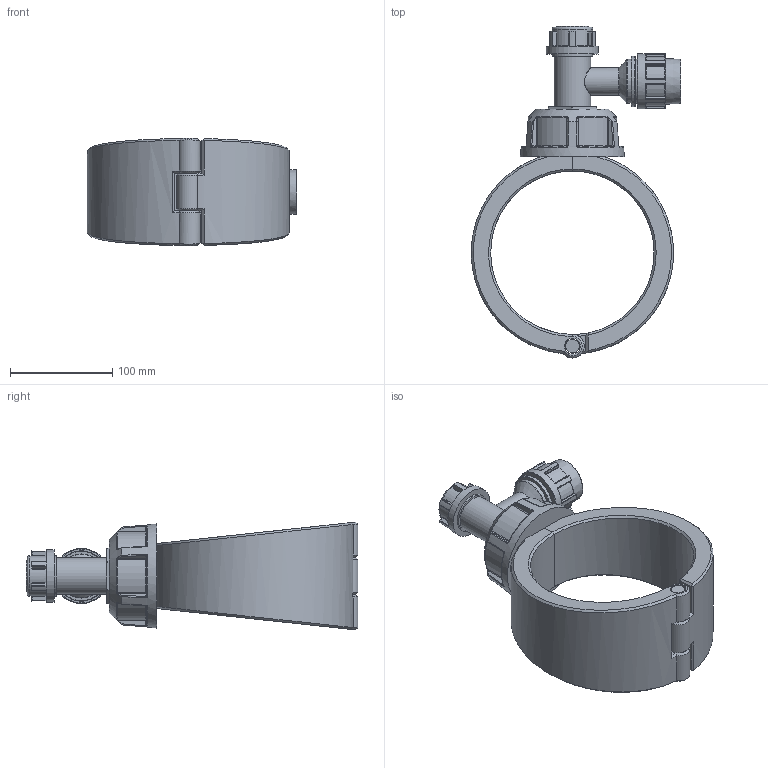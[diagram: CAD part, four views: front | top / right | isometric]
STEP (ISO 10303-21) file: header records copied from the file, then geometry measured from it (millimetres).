
FILE_DESCRIPTION(/* description */ ('Plassadle Tapper 160x25'),/* implementation_level */ '2;1');
FILE_NAME(/* name */ 'C:\Users\comp2\Dropbox\99-16-3568-Processing\Mechanical Fittings\16310\stp\163100180025_1631061800250A.stp',/* time_stamp */ '2022-02-03T11:58:42+00:00',/* author */ ('comp2'),/* organization */ (''),/* preprocessor_version */ 'ST-DEVELOPER v17.2',/* originating_system */ 'Autodesk Inventor 2019',/* authorisation */ '');
FILE_SCHEMA (('AUTOMOTIVE_DESIGN { 1 0 10303 214 3 1 1 }'));
Length unit declared in the file: millimetre
Products named in the file (1): 163100180025_1631061800250A
Bounding box: 204.97 x 324.99 x 105.57 mm (x, y, z)
Volume: 1379782.7 mm3; surface area: 185710.1 mm2
Topology: 4 solids, 4 shells, 519 faces, 1253 edges, 754 vertices
Faces by surface type: cylinder 184, plane 109, bspline 87, torus 83, sphere 40, cone 16
Full cylindrical faces by diameter (mm): 13.36 x1, 15.36 x3, 25 x1, 27 x1, 30.6 x1, 35.7 x1, 39.7 x2, 43.2 x2, 49.378 x1, 51 x1, 54 x1
Entity records: 18800 total; most frequent: CARTESIAN_POINT 7047, ORIENTED_EDGE 2508, DIRECTION 2426, EDGE_CURVE 1254, AXIS2_PLACEMENT_3D 1028, VERTEX_POINT 755, CIRCLE 563, EDGE_LOOP 537
